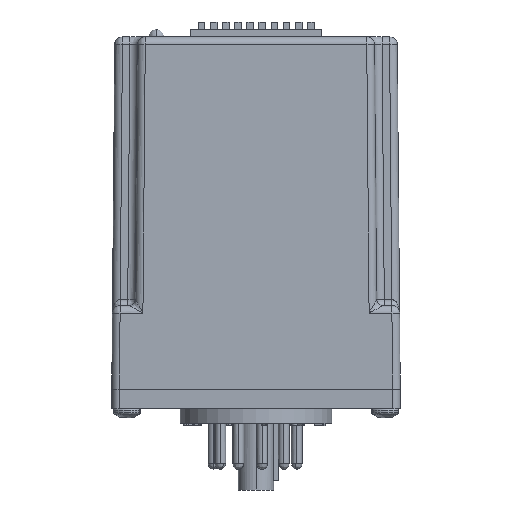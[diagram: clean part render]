
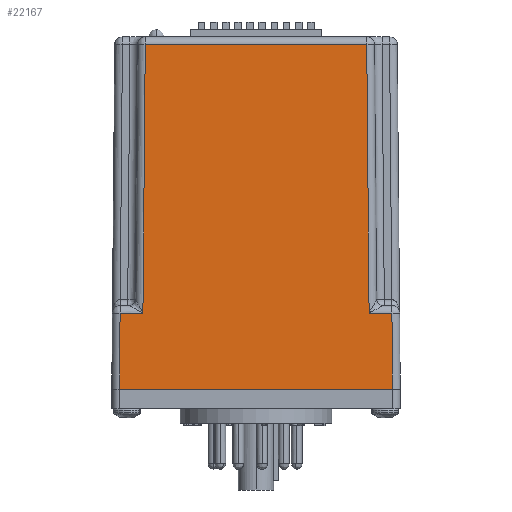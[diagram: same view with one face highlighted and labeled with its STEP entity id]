
A CAD part, left-side view. The second image highlights one B-rep face of the part: STEP entity #22167.
In plain terms, the highlighted planar face has unit normal (-1, 0, 0.009).
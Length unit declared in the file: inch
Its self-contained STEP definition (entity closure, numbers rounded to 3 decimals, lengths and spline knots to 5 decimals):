
#711 = LINE ( 'NONE', #773, #772 ) ;
#712 = CARTESIAN_POINT ( 'NONE',  ( -0.86954, 0.93104, 0.62555 ) ) ;
#713 = CARTESIAN_POINT ( 'NONE',  ( -0.85024, 0.91174, 2.83755 ) ) ;
#714 = DIRECTION ( 'NONE',  ( -0.009, 0.009, -1. ) ) ;
#715 = VECTOR ( 'NONE', #714, 39.37008 ) ;
#716 = CARTESIAN_POINT ( 'NONE',  ( -0.87484, 0.93634, 0.01853 ) ) ;
#717 = LINE ( 'NONE', #716, #715 ) ;
#718 = DIRECTION ( 'NONE',  ( 0.009, 0., 1. ) ) ;
#719 = DIRECTION ( 'NONE',  ( -1., 0., 0.009 ) ) ;
#720 = CARTESIAN_POINT ( 'NONE',  ( -0.875, -1.1875, 0. ) ) ;
#721 = AXIS2_PLACEMENT_3D ( 'NONE', #720, #719, #718 ) ;
#722 = PLANE ( 'NONE',  #721 ) ;
#723 = FACE_OUTER_BOUND ( 'NONE', #22170, .T. ) ;
#741 = DIRECTION ( 'NONE',  ( 0., 1., 0. ) ) ;
#742 = VECTOR ( 'NONE', #741, 39.37008 ) ;
#743 = CARTESIAN_POINT ( 'NONE',  ( -0.85024, 0.91119, 2.83755 ) ) ;
#744 = LINE ( 'NONE', #743, #742 ) ;
#745 = CARTESIAN_POINT ( 'NONE',  ( -0.85024, -0.91174, 2.83755 ) ) ;
#746 = DIRECTION ( 'NONE',  ( 0.009, 0.009, 1. ) ) ;
#747 = VECTOR ( 'NONE', #746, 39.37008 ) ;
#748 = CARTESIAN_POINT ( 'NONE',  ( -0.87502, -0.93652, -0.00219 ) ) ;
#749 = LINE ( 'NONE', #748, #747 ) ;
#750 = CARTESIAN_POINT ( 'NONE',  ( -0.86954, -0.93104, 0.62555 ) ) ;
#751 = DIRECTION ( 'NONE',  ( 0., 1., 0. ) ) ;
#752 = VECTOR ( 'NONE', #751, 39.37008 ) ;
#753 = CARTESIAN_POINT ( 'NONE',  ( -0.86954, -0.9305, 0.62555 ) ) ;
#754 = LINE ( 'NONE', #753, #752 ) ;
#755 = CARTESIAN_POINT ( 'NONE',  ( -0.86954, -1.11904, 0.62555 ) ) ;
#756 = DIRECTION ( 'NONE',  ( 0.009, 0.009, 1. ) ) ;
#757 = VECTOR ( 'NONE', #756, 39.37008 ) ;
#758 = CARTESIAN_POINT ( 'NONE',  ( -0.875, -1.12451, -0.00055 ) ) ;
#759 = LINE ( 'NONE', #758, #757 ) ;
#760 = CARTESIAN_POINT ( 'NONE',  ( -0.875, -1.1245, 0. ) ) ;
#761 = DIRECTION ( 'NONE',  ( 0., -1., 0. ) ) ;
#762 = VECTOR ( 'NONE', #761, 39.37008 ) ;
#763 = CARTESIAN_POINT ( 'NONE',  ( -0.875, -1.1875, 0. ) ) ;
#764 = LINE ( 'NONE', #763, #762 ) ;
#765 = CARTESIAN_POINT ( 'NONE',  ( -0.875, 1.1245, 0. ) ) ;
#766 = DIRECTION ( 'NONE',  ( -0.009, 0.009, -1. ) ) ;
#767 = VECTOR ( 'NONE', #766, 39.37008 ) ;
#768 = CARTESIAN_POINT ( 'NONE',  ( -0.87482, 1.12433, 0.02017 ) ) ;
#769 = LINE ( 'NONE', #768, #767 ) ;
#770 = CARTESIAN_POINT ( 'NONE',  ( -0.86954, 1.11904, 0.62555 ) ) ;
#771 = DIRECTION ( 'NONE',  ( 0., 1., 0. ) ) ;
#772 = VECTOR ( 'NONE', #771, 39.37008 ) ;
#773 = CARTESIAN_POINT ( 'NONE',  ( -0.86954, 1.1185, 0.62555 ) ) ;
#22167 = ADVANCED_FACE ( 'NONE', ( #723 ), #722, .T. ) ;
#22170 = EDGE_LOOP ( 'NONE', ( #22171, #22178, #22184, #22187, #22194, #22198, #22203, #22209 ) ) ;
#22171 = ORIENTED_EDGE ( 'NONE', *, *, #22172, .T. ) ;
#22172 = EDGE_CURVE ( 'NONE', #22174, #22176, #717, .T. ) ;
#22174 = VERTEX_POINT ( 'NONE', #713 ) ;
#22176 = VERTEX_POINT ( 'NONE', #712 ) ;
#22178 = ORIENTED_EDGE ( 'NONE', *, *, #22180, .T. ) ;
#22180 = EDGE_CURVE ( 'NONE', #22176, #22182, #711, .T. ) ;
#22182 = VERTEX_POINT ( 'NONE', #770 ) ;
#22184 = ORIENTED_EDGE ( 'NONE', *, *, #22185, .T. ) ;
#22185 = EDGE_CURVE ( 'NONE', #22182, #22186, #769, .T. ) ;
#22186 = VERTEX_POINT ( 'NONE', #765 ) ;
#22187 = ORIENTED_EDGE ( 'NONE', *, *, #22189, .T. ) ;
#22189 = EDGE_CURVE ( 'NONE', #22186, #22192, #764, .T. ) ;
#22192 = VERTEX_POINT ( 'NONE', #760 ) ;
#22194 = ORIENTED_EDGE ( 'NONE', *, *, #22196, .T. ) ;
#22196 = EDGE_CURVE ( 'NONE', #22192, #22197, #759, .T. ) ;
#22197 = VERTEX_POINT ( 'NONE', #755 ) ;
#22198 = ORIENTED_EDGE ( 'NONE', *, *, #22199, .T. ) ;
#22199 = EDGE_CURVE ( 'NONE', #22197, #22201, #754, .T. ) ;
#22201 = VERTEX_POINT ( 'NONE', #750 ) ;
#22203 = ORIENTED_EDGE ( 'NONE', *, *, #22205, .T. ) ;
#22205 = EDGE_CURVE ( 'NONE', #22201, #22208, #749, .T. ) ;
#22208 = VERTEX_POINT ( 'NONE', #745 ) ;
#22209 = ORIENTED_EDGE ( 'NONE', *, *, #22210, .T. ) ;
#22210 = EDGE_CURVE ( 'NONE', #22208, #22174, #744, .T. ) ;
